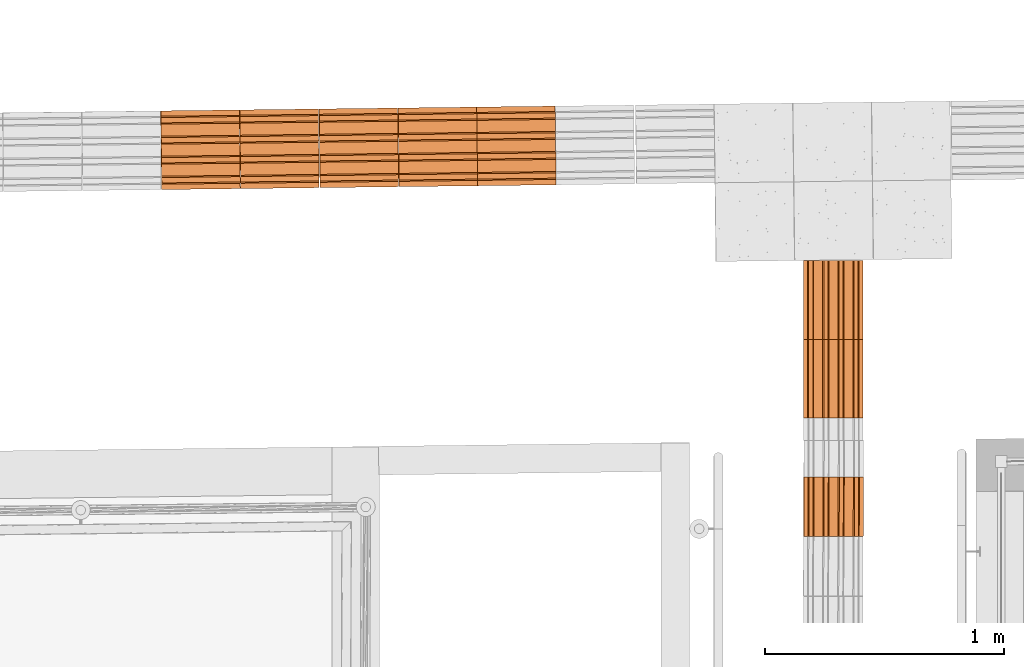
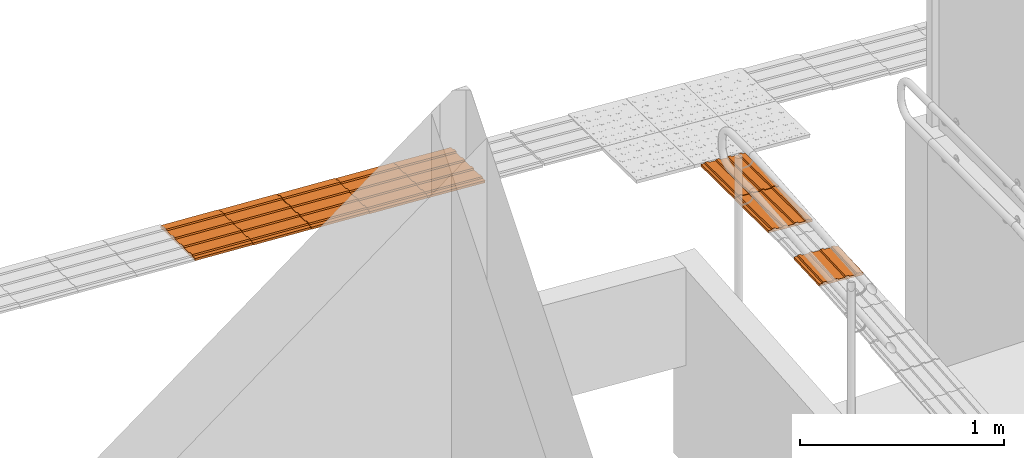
# One storey, part 183 of 237: 8 proxies.
"""IFC2X3 building model written with IfcOpenShell, lengths in millimetres."""

from ifc_helpers import new_model, entity, si_unit, converted_unit, derived_unit, money_unit, direction, frame, origin_with_axes, place, context, subcontext, project, spatial, open_shell, faceted_brep, surface_model, source, transform, mapped, type_object, element, save


model = new_model("IFC2X3")

# Units and contexts
model_context = context("Model", 3, precision=0.01, world=origin_with_axes(), true_north=direction((0.0, 1.0)))
body_context = subcontext(model_context, "Body", "Model", "MODEL_VIEW")
ifc_project = project(units=[si_unit("LENGTHUNIT", "METRE", prefix="MILLI"), si_unit("AREAUNIT", "SQUARE_METRE"), si_unit("VOLUMEUNIT", "CUBIC_METRE"), converted_unit("PLANEANGLEUNIT", "DEGREE", entity("IfcPlaneAngleMeasure", 0.0174532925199), si_unit("PLANEANGLEUNIT", "RADIAN"), dimensions=[0, 0, 0, 0, 0, 0, 0]), money_unit("USD"), converted_unit("TIMEUNIT", "Year", entity("IfcTimeMeasure", 31556926.0), si_unit("TIMEUNIT", "SECOND"), dimensions=[0, 0, 1, 0, 0, 0, 0]), si_unit("MASSUNIT", "GRAM", prefix="KILO"), si_unit("THERMODYNAMICTEMPERATUREUNIT", "DEGREE_CELSIUS"), si_unit("LUMINOUSINTENSITYUNIT", "LUMEN"), si_unit("ENERGYUNIT", "JOULE", prefix="MEGA"), derived_unit("THERMALCONDUCTANCEUNIT", [(si_unit("POWERUNIT", "WATT"), 1), (si_unit("LENGTHUNIT", "METRE"), -1), (si_unit("THERMODYNAMICTEMPERATUREUNIT", "KELVIN"), -1)]), derived_unit("SPECIFICHEATCAPACITYUNIT", [(si_unit("ENERGYUNIT", "JOULE"), 1), (si_unit("MASSUNIT", "GRAM", prefix="KILO"), -1), (si_unit("THERMODYNAMICTEMPERATUREUNIT", "KELVIN"), -1)]), derived_unit("MASSDENSITYUNIT", [(si_unit("MASSUNIT", "GRAM", prefix="KILO"), 1), (si_unit("VOLUMEUNIT", "CUBIC_METRE"), -1)])], contexts=[model_context])

# Site, building, storey
site_placement = place(None, origin_with_axes())
site = spatial("IfcSite", under=ifc_project, at=site_placement, Name="Local", CompositionType="ELEMENT")
building_placement = place(site_placement, origin_with_axes())
building = spatial("IfcBuilding", under=site, at=building_placement, Name="Construção", CompositionType="ELEMENT")
storey_placement = place(building_placement, origin_with_axes())
storey = spatial("IfcBuildingStorey", under=building, at=storey_placement, Name="Pavimento Térreo", CompositionType="ELEMENT", Elevation=0.0)

# Proxies
building_element_proxy_type_1 = type_object("IfcBuildingElementProxyType", Name="Piso Direcional 27", PredefinedType="NOTDEFINED")
shared_shape_1 = source(origin_with_axes(), body_context, "Body", "SurfaceModel", [
    surface_model("IfcShellBasedSurfaceModel", [(-0.309064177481, -47.258225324, 4.01664745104), (328.718344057, -47.258225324, 29.3339267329), (328.20688387, -41.665004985, 35.9809450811), (-0.820524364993, -41.665004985, 10.6636657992)], [open_shell([[[0, 1, 2, 3]]])]),
    surface_model("IfcShellBasedSurfaceModel", [(329.741264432, -153.529411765, 16.0398900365), (329.741264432, 176.470588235, 16.0398900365), (328.718344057, 176.470588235, 29.3339267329), (328.718344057, 154.097706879, 29.3339267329), (328.20688387, 148.50448654, 35.9809450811), (328.20688387, 126.131605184, 35.9809450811), (328.718344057, 120.538384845, 29.3339267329), (328.718344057, 70.1994017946, 29.3339267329), (328.20688387, 64.6061814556, 35.9809450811), (328.20688387, 42.2333000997, 35.9809450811), (328.718344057, 36.6400797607, 29.3339267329), (328.718344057, -13.6989032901, 29.3339267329), (328.20688387, -19.2921236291, 35.9809450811), (328.20688387, -41.665004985, 35.9809450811), (328.718344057, -47.258225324, 29.3339267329), (328.718344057, -97.5972083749, 29.3339267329), (328.20688387, -103.190428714, 35.9809450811), (328.20688387, -125.56331007, 35.9809450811), (328.718344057, -131.156530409, 29.3339267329), (328.718344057, -153.529411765, 29.3339267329)], [open_shell([[[0, 1, 2, 3, 4, 5, 6, 7, 8, 9, 10, 11, 12, 13, 14, 15, 16, 17, 18, 19]]])]),
    surface_model("IfcShellBasedSurfaceModel", [(-0.820524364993, -19.2921236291, 10.6636657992), (328.20688387, -19.2921236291, 35.9809450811), (328.718344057, -13.6989032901, 29.3339267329), (-0.309064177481, -13.6989032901, 4.01664745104)], [open_shell([[[0, 1, 2, 3]]])]),
    surface_model("IfcShellBasedSurfaceModel", [(-0.820524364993, -103.190428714, 10.6636657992), (328.20688387, -103.190428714, 35.9809450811), (328.718344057, -97.5972083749, 29.3339267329), (-0.309064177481, -97.5972083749, 4.01664745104)], [open_shell([[[0, 1, 2, 3]]])]),
    surface_model("IfcShellBasedSurfaceModel", [(-0.820524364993, 64.6061814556, 10.6636657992), (328.20688387, 64.6061814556, 35.9809450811), (328.718344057, 70.1994017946, 29.3339267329), (-0.309064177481, 70.1994017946, 4.01664745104)], [open_shell([[[0, 1, 2, 3]]])]),
    surface_model("IfcShellBasedSurfaceModel", [(-0.309064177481, 36.6400797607, 4.01664745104), (328.718344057, 36.6400797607, 29.3339267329), (328.20688387, 42.2333000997, 35.9809450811), (-0.820524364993, 42.2333000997, 10.6636657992)], [open_shell([[[0, 1, 2, 3]]])]),
    surface_model("IfcShellBasedSurfaceModel", [(-0.309064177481, -131.156530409, 4.01664745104), (328.718344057, -131.156530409, 29.3339267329), (328.20688387, -125.56331007, 35.9809450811), (-0.820524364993, -125.56331007, 10.6636657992)], [open_shell([[[0, 1, 2, 3]]])]),
    surface_model("IfcShellBasedSurfaceModel", [(-0.309064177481, 176.470588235, 4.01664745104), (-0.309064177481, 154.097706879, 4.01664745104), (328.718344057, 154.097706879, 29.3339267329), (328.718344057, 176.470588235, 29.3339267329)], [open_shell([[[0, 1, 2, 3]]])]),
    surface_model("IfcShellBasedSurfaceModel", [(-0.309064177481, 120.538384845, 4.01664745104), (328.718344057, 120.538384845, 29.3339267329), (328.20688387, 126.131605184, 35.9809450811), (-0.820524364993, 126.131605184, 10.6636657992)], [open_shell([[[0, 1, 2, 3]]])]),
    surface_model("IfcShellBasedSurfaceModel", [(-0.820524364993, 148.50448654, 10.6636657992), (328.20688387, 148.50448654, 35.9809450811), (328.718344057, 154.097706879, 29.3339267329), (-0.309064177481, 154.097706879, 4.01664745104)], [open_shell([[[0, 1, 2, 3]]])]),
    surface_model("IfcShellBasedSurfaceModel", [(-0.309064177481, 36.6400797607, 4.01664745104), (-0.309064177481, -13.6989032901, 4.01664745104), (328.718344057, -13.6989032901, 29.3339267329), (328.718344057, 36.6400797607, 29.3339267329)], [open_shell([[[0, 1, 2, 3]]])]),
    surface_model("IfcShellBasedSurfaceModel", [(-0.309064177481, 120.538384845, 4.01664745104), (-0.309064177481, 70.1994017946, 4.01664745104), (328.718344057, 70.1994017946, 29.3339267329), (328.718344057, 120.538384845, 29.3339267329)], [open_shell([[[0, 1, 2, 3]]])]),
    surface_model("IfcShellBasedSurfaceModel", [(-0.820524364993, 148.50448654, 10.6636657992), (-0.820524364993, 126.131605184, 10.6636657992), (328.20688387, 126.131605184, 35.9809450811), (328.20688387, 148.50448654, 35.9809450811)], [open_shell([[[0, 1, 2, 3]]])]),
    surface_model("IfcShellBasedSurfaceModel", [(-0.309064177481, 120.538384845, 4.01664745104), (-0.820524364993, 126.131605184, 10.6636657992), (-0.820524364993, 148.50448654, 10.6636657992), (-0.309064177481, 154.097706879, 4.01664745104), (-0.309064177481, 176.470588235, 4.01664745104), (0.713856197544, 176.470588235, -9.27738924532), (0.713856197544, -153.529411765, -9.27738924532), (-0.309064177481, -153.529411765, 4.01664745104), (-0.309064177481, -131.156530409, 4.01664745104), (-0.820524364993, -125.56331007, 10.6636657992), (-0.820524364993, -103.190428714, 10.6636657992), (-0.309064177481, -97.5972083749, 4.01664745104), (-0.309064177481, -47.258225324, 4.01664745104), (-0.820524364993, -41.665004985, 10.6636657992), (-0.820524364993, -19.2921236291, 10.6636657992), (-0.309064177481, -13.6989032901, 4.01664745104), (-0.309064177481, 36.6400797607, 4.01664745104), (-0.820524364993, 42.2333000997, 10.6636657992), (-0.820524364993, 64.6061814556, 10.6636657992), (-0.309064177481, 70.1994017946, 4.01664745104)], [open_shell([[[0, 1, 2, 3, 4, 5, 6, 7, 8, 9, 10, 11, 12, 13, 14, 15, 16, 17, 18, 19]]])]),
    surface_model("IfcShellBasedSurfaceModel", [(328.20688387, -41.665004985, 35.9809450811), (328.20688387, -19.2921236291, 35.9809450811), (-0.820524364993, -19.2921236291, 10.6636657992), (-0.820524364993, -41.665004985, 10.6636657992)], [open_shell([[[0, 1, 2, 3]]])]),
    surface_model("IfcShellBasedSurfaceModel", [(-0.309064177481, -47.258225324, 4.01664745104), (-0.309064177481, -97.5972083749, 4.01664745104), (328.718344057, -97.5972083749, 29.3339267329), (328.718344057, -47.258225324, 29.3339267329)], [open_shell([[[0, 1, 2, 3]]])]),
    surface_model("IfcShellBasedSurfaceModel", [(328.20688387, 42.2333000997, 35.9809450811), (328.20688387, 64.6061814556, 35.9809450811), (-0.820524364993, 64.6061814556, 10.6636657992), (-0.820524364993, 42.2333000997, 10.6636657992)], [open_shell([[[0, 1, 2, 3]]])]),
    surface_model("IfcShellBasedSurfaceModel", [(328.20688387, -125.56331007, 35.9809450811), (328.20688387, -103.190428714, 35.9809450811), (-0.820524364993, -103.190428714, 10.6636657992), (-0.820524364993, -125.56331007, 10.6636657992)], [open_shell([[[0, 1, 2, 3]]])]),
    surface_model("IfcShellBasedSurfaceModel", [(329.741264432, 176.470588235, 16.0398900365), (0.713856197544, 176.470588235, -9.27738924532), (-0.309064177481, 176.470588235, 4.01664745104), (328.718344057, 176.470588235, 29.3339267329)], [open_shell([[[0, 1, 2, 3]]])]),
    surface_model("IfcShellBasedSurfaceModel", [(329.741264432, -153.529411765, 16.0398900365), (0.713856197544, -153.529411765, -9.27738924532), (0.713856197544, 176.470588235, -9.27738924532), (329.741264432, 176.470588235, 16.0398900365)], [open_shell([[[0, 1, 2, 3]]])]),
    surface_model("IfcShellBasedSurfaceModel", [(328.718344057, -153.529411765, 29.3339267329), (328.718344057, -131.156530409, 29.3339267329), (-0.309064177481, -131.156530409, 4.01664745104), (-0.309064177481, -153.529411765, 4.01664745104)], [open_shell([[[0, 1, 2, 3]]])]),
    surface_model("IfcShellBasedSurfaceModel", [(0.713856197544, -153.529411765, -9.27738924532), (329.741264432, -153.529411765, 16.0398900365), (328.718344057, -153.529411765, 29.3339267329), (-0.309064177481, -153.529411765, 4.01664745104)], [open_shell([[[0, 1, 2, 3]]])]),
])
proxy_1_placement = place(storey_placement, frame((66400.1889889, 36854.0893343, -2731.22411831), z_axis=(0.0, 0.0, 1.0), x_axis=(-0.999926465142, -0.012127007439, 0.0)))
element("IfcBuildingElementProxy", 1, at=proxy_1_placement, inside=storey, type_object=building_element_proxy_type_1, Name="Objeto-0055", context=body_context, shape_type="MappedRepresentation", body=[
    mapped(shared_shape_1, transform((0.0, 0.0, 0.0))),
])
building_element_proxy_type_2 = type_object("IfcBuildingElementProxyType", Name="FALTA", PredefinedType="NOTDEFINED")
shared_shape_2 = source(origin_with_axes(), body_context, "Body", "Brep", [
    faceted_brep([(249.287764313, -99.3610078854, 19.28314138), (-0.245935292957, -99.3610078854, 4.02100649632), (-0.245935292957, -116.310160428, 4.02100649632), (249.287764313, -116.310160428, 19.28314138), (-0.652925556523, -95.1237197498, 10.6752384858), (248.880774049, -95.1237197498, 25.9373733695), (-0.652925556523, -78.1745672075, 10.6752384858), (-0.245935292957, -73.9372790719, 4.02100649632), (-0.245935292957, -35.8016858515, 4.02100649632), (-0.652925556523, -31.5643977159, 10.6752384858), (-0.652925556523, -14.6152451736, 10.6752384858), (-0.245935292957, -10.377957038, 4.02100649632), (-0.245935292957, 27.7576361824, 4.02100649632), (-0.652925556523, 31.994924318, 10.6752384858), (-0.652925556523, 48.9440768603, 10.6752384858), (-0.245935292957, 53.1813649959, 4.02100649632), (-0.245935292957, 91.3169582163, 4.02100649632), (-0.652925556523, 95.5542463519, 10.6752384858), (-0.652925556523, 112.503398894, 10.6752384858), (-0.245935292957, 116.74068703, 4.02100649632), (-0.245935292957, 133.689839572, 4.02100649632), (0.568045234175, 133.689839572, -9.28745748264), (0.568045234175, -116.310160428, -9.28745748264), (250.10174484, -116.310160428, 5.97467740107), (248.880774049, -78.1745672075, 25.9373733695), (250.10174484, 133.689839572, 5.97467740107), (249.287764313, 133.689839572, 19.28314138), (249.287764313, 116.74068703, 19.28314138), (248.880774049, 112.503398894, 25.9373733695), (248.880774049, 95.5542463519, 25.9373733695), (249.287764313, 91.3169582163, 19.28314138), (249.287764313, 53.1813649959, 19.28314138), (248.880774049, 48.9440768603, 25.9373733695), (248.880774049, 31.994924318, 25.9373733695), (249.287764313, 27.7576361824, 19.28314138), (249.287764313, -10.377957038, 19.28314138), (248.880774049, -14.6152451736, 25.9373733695), (248.880774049, -31.5643977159, 25.9373733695), (249.287764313, -35.8016858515, 19.28314138), (249.287764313, -73.9372790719, 19.28314138)], [[[0, 1, 2, 3]], [[4, 1, 0, 5]], [[6, 7, 8, 9, 10, 11, 12, 13, 14, 15, 16, 17, 18, 19, 20, 21, 22, 2, 1, 4]], [[2, 22, 23, 3]], [[24, 5, 0, 3, 23, 25, 26, 27, 28, 29, 30, 31, 32, 33, 34, 35, 36, 37, 38, 39]], [[6, 4, 5, 24]], [[7, 6, 24, 39]], [[38, 8, 7, 39]], [[9, 8, 38, 37]], [[10, 9, 37, 36]], [[10, 36, 35, 11]], [[11, 35, 34, 12]], [[13, 12, 34, 33]], [[14, 13, 33, 32]], [[15, 14, 32, 31]], [[15, 31, 30, 16]], [[17, 16, 30, 29]], [[18, 17, 29, 28]], [[19, 18, 28, 27]], [[20, 19, 27, 26]], [[20, 26, 25, 21]], [[22, 21, 25, 23]]]),
])
proxy_2_placement = place(storey_placement, frame((67573.9389832, 35203.5604678, -2830.47282413), z_axis=(0.0748760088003, 0.0207822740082, 0.996976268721), x_axis=(-0.00155642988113, 0.999784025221, -0.0207239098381)))
element("IfcBuildingElementProxy", 2, at=proxy_2_placement, inside=storey, type_object=building_element_proxy_type_2, Name="Objeto-0055", context=body_context, shape_type="MappedRepresentation", body=[
    mapped(shared_shape_2, transform((0.0, 0.0, 0.0))),
])
shared_shape_3 = source(origin_with_axes(), body_context, "Body", "SurfaceModel", [
    surface_model("IfcShellBasedSurfaceModel", [(-0.281015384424, -47.258225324, 4.01870722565), (328.915121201, -47.258225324, 27.0383435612), (328.450078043, -41.665004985, 33.6887705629), (-0.746058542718, -41.665004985, 10.6691342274)], [open_shell([[[0, 1, 2, 3]]])]),
    surface_model("IfcShellBasedSurfaceModel", [(329.845207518, -153.529411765, 13.7374895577), (329.845207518, 176.470588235, 13.7374895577), (328.915121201, 176.470588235, 27.0383435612), (328.915121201, 154.097706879, 27.0383435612), (328.450078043, 148.50448654, 33.6887705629), (328.450078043, 126.131605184, 33.6887705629), (328.915121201, 120.538384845, 27.0383435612), (328.915121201, 70.1994017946, 27.0383435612), (328.450078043, 64.6061814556, 33.6887705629), (328.450078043, 42.2333000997, 33.6887705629), (328.915121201, 36.6400797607, 27.0383435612), (328.915121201, -13.6989032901, 27.0383435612), (328.450078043, -19.2921236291, 33.6887705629), (328.450078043, -41.665004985, 33.6887705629), (328.915121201, -47.258225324, 27.0383435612), (328.915121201, -97.5972083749, 27.0383435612), (328.450078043, -103.190428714, 33.6887705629), (328.450078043, -125.56331007, 33.6887705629), (328.915121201, -131.156530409, 27.0383435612), (328.915121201, -153.529411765, 27.0383435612)], [open_shell([[[0, 1, 2, 3, 4, 5, 6, 7, 8, 9, 10, 11, 12, 13, 14, 15, 16, 17, 18, 19]]])]),
    surface_model("IfcShellBasedSurfaceModel", [(-0.746058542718, -19.2921236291, 10.6691342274), (328.450078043, -19.2921236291, 33.6887705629), (328.915121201, -13.6989032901, 27.0383435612), (-0.281015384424, -13.6989032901, 4.01870722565)], [open_shell([[[0, 1, 2, 3]]])]),
    surface_model("IfcShellBasedSurfaceModel", [(-0.746058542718, -103.190428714, 10.6691342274), (328.450078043, -103.190428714, 33.6887705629), (328.915121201, -97.5972083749, 27.0383435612), (-0.281015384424, -97.5972083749, 4.01870722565)], [open_shell([[[0, 1, 2, 3]]])]),
    surface_model("IfcShellBasedSurfaceModel", [(-0.746058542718, 64.6061814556, 10.6691342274), (328.450078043, 64.6061814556, 33.6887705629), (328.915121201, 70.1994017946, 27.0383435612), (-0.281015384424, 70.1994017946, 4.01870722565)], [open_shell([[[0, 1, 2, 3]]])]),
    surface_model("IfcShellBasedSurfaceModel", [(-0.281015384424, 36.6400797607, 4.01870722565), (328.915121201, 36.6400797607, 27.0383435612), (328.450078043, 42.2333000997, 33.6887705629), (-0.746058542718, 42.2333000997, 10.6691342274)], [open_shell([[[0, 1, 2, 3]]])]),
    surface_model("IfcShellBasedSurfaceModel", [(-0.281015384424, -131.156530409, 4.01870722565), (328.915121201, -131.156530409, 27.0383435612), (328.450078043, -125.56331007, 33.6887705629), (-0.746058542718, -125.56331007, 10.6691342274)], [open_shell([[[0, 1, 2, 3]]])]),
    surface_model("IfcShellBasedSurfaceModel", [(-0.281015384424, 176.470588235, 4.01870722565), (-0.281015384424, 154.097706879, 4.01870722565), (328.915121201, 154.097706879, 27.0383435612), (328.915121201, 176.470588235, 27.0383435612)], [open_shell([[[0, 1, 2, 3]]])]),
    surface_model("IfcShellBasedSurfaceModel", [(-0.281015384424, 120.538384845, 4.01870722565), (328.915121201, 120.538384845, 27.0383435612), (328.450078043, 126.131605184, 33.6887705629), (-0.746058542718, 126.131605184, 10.6691342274)], [open_shell([[[0, 1, 2, 3]]])]),
    surface_model("IfcShellBasedSurfaceModel", [(-0.746058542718, 148.50448654, 10.6691342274), (328.450078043, 148.50448654, 33.6887705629), (328.915121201, 154.097706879, 27.0383435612), (-0.281015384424, 154.097706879, 4.01870722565)], [open_shell([[[0, 1, 2, 3]]])]),
    surface_model("IfcShellBasedSurfaceModel", [(-0.281015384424, 36.6400797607, 4.01870722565), (-0.281015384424, -13.6989032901, 4.01870722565), (328.915121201, -13.6989032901, 27.0383435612), (328.915121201, 36.6400797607, 27.0383435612)], [open_shell([[[0, 1, 2, 3]]])]),
    surface_model("IfcShellBasedSurfaceModel", [(-0.281015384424, 120.538384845, 4.01870722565), (-0.281015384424, 70.1994017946, 4.01870722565), (328.915121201, 70.1994017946, 27.0383435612), (328.915121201, 120.538384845, 27.0383435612)], [open_shell([[[0, 1, 2, 3]]])]),
    surface_model("IfcShellBasedSurfaceModel", [(-0.746058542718, 148.50448654, 10.6691342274), (-0.746058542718, 126.131605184, 10.6691342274), (328.450078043, 126.131605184, 33.6887705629), (328.450078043, 148.50448654, 33.6887705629)], [open_shell([[[0, 1, 2, 3]]])]),
    surface_model("IfcShellBasedSurfaceModel", [(-0.281015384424, 120.538384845, 4.01870722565), (-0.746058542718, 126.131605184, 10.6691342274), (-0.746058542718, 148.50448654, 10.6691342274), (-0.281015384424, 154.097706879, 4.01870722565), (-0.281015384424, 176.470588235, 4.01870722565), (0.649070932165, 176.470588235, -9.28214677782), (0.649070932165, -153.529411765, -9.28214677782), (-0.281015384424, -153.529411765, 4.01870722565), (-0.281015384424, -131.156530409, 4.01870722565), (-0.746058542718, -125.56331007, 10.6691342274), (-0.746058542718, -103.190428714, 10.6691342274), (-0.281015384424, -97.5972083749, 4.01870722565), (-0.281015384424, -47.258225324, 4.01870722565), (-0.746058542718, -41.665004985, 10.6691342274), (-0.746058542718, -19.2921236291, 10.6691342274), (-0.281015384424, -13.6989032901, 4.01870722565), (-0.281015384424, 36.6400797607, 4.01870722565), (-0.746058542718, 42.2333000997, 10.6691342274), (-0.746058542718, 64.6061814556, 10.6691342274), (-0.281015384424, 70.1994017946, 4.01870722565)], [open_shell([[[0, 1, 2, 3, 4, 5, 6, 7, 8, 9, 10, 11, 12, 13, 14, 15, 16, 17, 18, 19]]])]),
    surface_model("IfcShellBasedSurfaceModel", [(328.450078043, -41.665004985, 33.6887705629), (328.450078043, -19.2921236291, 33.6887705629), (-0.746058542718, -19.2921236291, 10.6691342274), (-0.746058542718, -41.665004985, 10.6691342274)], [open_shell([[[0, 1, 2, 3]]])]),
    surface_model("IfcShellBasedSurfaceModel", [(-0.281015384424, -47.258225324, 4.01870722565), (-0.281015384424, -97.5972083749, 4.01870722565), (328.915121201, -97.5972083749, 27.0383435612), (328.915121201, -47.258225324, 27.0383435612)], [open_shell([[[0, 1, 2, 3]]])]),
    surface_model("IfcShellBasedSurfaceModel", [(328.450078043, 42.2333000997, 33.6887705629), (328.450078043, 64.6061814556, 33.6887705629), (-0.746058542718, 64.6061814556, 10.6691342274), (-0.746058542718, 42.2333000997, 10.6691342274)], [open_shell([[[0, 1, 2, 3]]])]),
    surface_model("IfcShellBasedSurfaceModel", [(328.450078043, -125.56331007, 33.6887705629), (328.450078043, -103.190428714, 33.6887705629), (-0.746058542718, -103.190428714, 10.6691342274), (-0.746058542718, -125.56331007, 10.6691342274)], [open_shell([[[0, 1, 2, 3]]])]),
    surface_model("IfcShellBasedSurfaceModel", [(329.845207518, 176.470588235, 13.7374895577), (0.649070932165, 176.470588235, -9.28214677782), (-0.281015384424, 176.470588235, 4.01870722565), (328.915121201, 176.470588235, 27.0383435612)], [open_shell([[[0, 1, 2, 3]]])]),
    surface_model("IfcShellBasedSurfaceModel", [(329.845207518, -153.529411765, 13.7374895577), (0.649070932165, -153.529411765, -9.28214677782), (0.649070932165, 176.470588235, -9.28214677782), (329.845207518, 176.470588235, 13.7374895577)], [open_shell([[[0, 1, 2, 3]]])]),
    surface_model("IfcShellBasedSurfaceModel", [(328.915121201, -153.529411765, 27.0383435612), (328.915121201, -131.156530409, 27.0383435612), (-0.281015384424, -131.156530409, 4.01870722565), (-0.281015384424, -153.529411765, 4.01870722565)], [open_shell([[[0, 1, 2, 3]]])]),
    surface_model("IfcShellBasedSurfaceModel", [(0.649070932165, -153.529411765, -9.28214677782), (329.845207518, -153.529411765, 13.7374895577), (328.915121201, -153.529411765, 27.0383435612), (-0.281015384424, -153.529411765, 4.01870722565)], [open_shell([[[0, 1, 2, 3]]])]),
])
for number, where, z_axis, x_axis, name in (
    (3, (65076.4498055, 36838.0351589, -2630.49728927), (0.0, 0.0, 1.0), (-0.999926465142, -0.012127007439, 0.0), "Objeto-0055"),
    (4, (66071.2499934, 36850.0999953, -2705.43714449), (0.0, 0.0, 1.0), (-0.999926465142, -0.012127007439, 0.0), "Objeto-0055"),
    (5, (65407.3751971, 36842.0485887, -2655.42906966), (0.0, 0.0, 1.0), (-0.999926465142, -0.012127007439, 0.0), "Objeto-0055"),
    (6, (65740.1925245, 36846.0849637, -2679.96577263), (0.0, 0.0, 1.0), (-0.999926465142, -0.012127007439, 0.0), "Objeto-0055"),
):
    element("IfcBuildingElementProxy", number, at=place(storey_placement, frame(where, z_axis=z_axis, x_axis=x_axis)), inside=storey, type_object=building_element_proxy_type_1, Name=name, context=body_context, shape_type="MappedRepresentation", body=[
        mapped(shared_shape_3, transform((0.0, 0.0, 0.0))),
    ])
shared_shape_4 = source(origin_with_axes(), body_context, "Body", "SurfaceModel", [
    surface_model("IfcShellBasedSurfaceModel", [(-0.059020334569, -35.3871052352, 6.76306046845), (329.928414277, -35.3871052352, 9.64281718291), (329.873245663, -30.6508452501, 15.9645141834), (-0.114188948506, -30.6508452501, 13.084757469)], [open_shell([[[0, 1, 2, 3]]])]),
    surface_model("IfcShellBasedSurfaceModel", [(329.990525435, -116.681221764, 2.52558342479), (330.157898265, 132.581966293, -16.6534433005), (330.041887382, 133.604886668, -3.35991280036), (330.030540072, 116.705687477, -2.05963980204), (329.969697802, 112.992347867, 4.91219369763), (329.958350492, 96.0931486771, 6.21246669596), (330.013519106, 91.356888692, -0.109230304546), (329.987987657, 53.3336905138, 2.81638394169), (329.927145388, 49.6203509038, 9.78821744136), (329.915798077, 32.7211517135, 11.0884904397), (329.970966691, 27.9848917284, 4.76679343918), (329.945435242, -10.0383064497, 7.69240768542), (329.884592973, -13.7516460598, 14.6642411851), (329.873245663, -30.6508452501, 15.9645141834), (329.928414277, -35.3871052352, 9.64281718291), (329.902882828, -73.4103034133, 12.5684314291), (329.842040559, -77.1236430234, 19.5402649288), (329.830693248, -94.0228422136, 20.8405379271), (329.885861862, -98.7591021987, 14.5188409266), (329.874514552, -115.658301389, 15.819113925)], [open_shell([[[0, 1, 2, 3, 4, 5, 6, 7, 8, 9, 10, 11, 12, 13, 14, 15, 16, 17, 18, 19]]])]),
    surface_model("IfcShellBasedSurfaceModel", [(-0.102841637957, -13.7516460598, 11.7844844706), (329.884592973, -13.7516460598, 14.6642411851), (329.945435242, -10.0383064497, 7.69240768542), (-0.0419993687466, -10.0383064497, 4.81265097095)], [open_shell([[[0, 1, 2, 3]]])]),
    surface_model("IfcShellBasedSurfaceModel", [(-0.145394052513, -77.1236430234, 16.6605082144), (329.842040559, -77.1236430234, 19.5402649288), (329.902882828, -73.4103034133, 12.5684314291), (-0.0845517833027, -73.4103034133, 9.68867471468)], [open_shell([[[0, 1, 2, 3]]])]),
    surface_model("IfcShellBasedSurfaceModel", [(-0.0602892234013, 49.6203509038, 6.9084607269), (329.927145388, 49.6203509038, 9.78821744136), (329.987987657, 53.3336905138, 2.81638394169), (0.000553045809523, 53.3336905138, -0.0633727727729)], [open_shell([[[0, 1, 2, 3]]])]),
    surface_model("IfcShellBasedSurfaceModel", [(-0.0164679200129, 27.9848917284, 1.88703672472), (329.970966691, 27.9848917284, 4.76679343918), (329.915798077, 32.7211517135, 11.0884904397), (-0.0716365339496, 32.7211517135, 8.20873372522)], [open_shell([[[0, 1, 2, 3]]])]),
    surface_model("IfcShellBasedSurfaceModel", [(-0.101572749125, -98.7591021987, 11.6390842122), (329.885861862, -98.7591021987, 14.5188409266), (329.830693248, -94.0228422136, 20.8405379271), (-0.156741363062, -94.0228422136, 17.9607812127)], [open_shell([[[0, 1, 2, 3]]])]),
    surface_model("IfcShellBasedSurfaceModel", [(0.0544527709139, 133.604886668, -6.23966951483), (0.0431054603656, 116.705687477, -4.9393965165), (330.030540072, 116.705687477, -2.05963980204), (330.041887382, 133.604886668, -3.35991280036)], [open_shell([[[0, 1, 2, 3]]])]),
    surface_model("IfcShellBasedSurfaceModel", [(0.0260844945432, 91.356888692, -2.98898701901), (330.013519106, 91.356888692, -0.109230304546), (329.958350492, 96.0931486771, 6.21246669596), (-0.0290841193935, 96.0931486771, 3.3327099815)], [open_shell([[[0, 1, 2, 3]]])]),
    surface_model("IfcShellBasedSurfaceModel", [(-0.0177368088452, 112.992347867, 2.03243698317), (329.969697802, 112.992347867, 4.91219369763), (330.030540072, 116.705687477, -2.05963980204), (0.0431054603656, 116.705687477, -4.9393965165)], [open_shell([[[0, 1, 2, 3]]])]),
    surface_model("IfcShellBasedSurfaceModel", [(-0.0164679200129, 27.9848917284, 1.88703672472), (-0.0419993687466, -10.0383064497, 4.81265097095), (329.945435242, -10.0383064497, 7.69240768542), (329.970966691, 27.9848917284, 4.76679343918)], [open_shell([[[0, 1, 2, 3]]])]),
    surface_model("IfcShellBasedSurfaceModel", [(0.0260844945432, 91.356888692, -2.98898701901), (0.000553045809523, 53.3336905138, -0.0633727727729), (329.987987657, 53.3336905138, 2.81638394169), (330.013519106, 91.356888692, -0.109230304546)], [open_shell([[[0, 1, 2, 3]]])]),
    surface_model("IfcShellBasedSurfaceModel", [(-0.0177368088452, 112.992347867, 2.03243698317), (-0.0290841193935, 96.0931486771, 3.3327099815), (329.958350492, 96.0931486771, 6.21246669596), (329.969697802, 112.992347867, 4.91219369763)], [open_shell([[[0, 1, 2, 3]]])]),
    surface_model("IfcShellBasedSurfaceModel", [(0.0260844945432, 91.356888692, -2.98898701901), (-0.0290841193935, 96.0931486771, 3.3327099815), (-0.0177368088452, 112.992347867, 2.03243698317), (0.0431054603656, 116.705687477, -4.9393965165), (0.0544527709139, 133.604886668, -6.23966951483), (0.170463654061, 132.581966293, -19.533200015), (0.00309082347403, -116.681221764, -0.354173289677), (-0.112920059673, -115.658301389, 12.9393572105), (-0.101572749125, -98.7591021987, 11.6390842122), (-0.156741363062, -94.0228422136, 17.9607812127), (-0.145394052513, -77.1236430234, 16.6605082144), (-0.0845517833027, -73.4103034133, 9.68867471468), (-0.059020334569, -35.3871052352, 6.76306046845), (-0.114188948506, -30.6508452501, 13.084757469), (-0.102841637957, -13.7516460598, 11.7844844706), (-0.0419993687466, -10.0383064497, 4.81265097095), (-0.0164679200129, 27.9848917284, 1.88703672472), (-0.0716365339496, 32.7211517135, 8.20873372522), (-0.0602892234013, 49.6203509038, 6.9084607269), (0.000553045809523, 53.3336905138, -0.0633727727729)], [open_shell([[[0, 1, 2, 3, 4, 5, 6, 7, 8, 9, 10, 11, 12, 13, 14, 15, 16, 17, 18, 19]]])]),
    surface_model("IfcShellBasedSurfaceModel", [(329.873245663, -30.6508452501, 15.9645141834), (329.884592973, -13.7516460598, 14.6642411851), (-0.102841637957, -13.7516460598, 11.7844844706), (-0.114188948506, -30.6508452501, 13.084757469)], [open_shell([[[0, 1, 2, 3]]])]),
    surface_model("IfcShellBasedSurfaceModel", [(-0.059020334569, -35.3871052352, 6.76306046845), (-0.0845517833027, -73.4103034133, 9.68867471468), (329.902882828, -73.4103034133, 12.5684314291), (329.928414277, -35.3871052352, 9.64281718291)], [open_shell([[[0, 1, 2, 3]]])]),
    surface_model("IfcShellBasedSurfaceModel", [(329.915798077, 32.7211517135, 11.0884904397), (329.927145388, 49.6203509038, 9.78821744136), (-0.0602892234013, 49.6203509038, 6.9084607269), (-0.0716365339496, 32.7211517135, 8.20873372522)], [open_shell([[[0, 1, 2, 3]]])]),
    surface_model("IfcShellBasedSurfaceModel", [(329.830693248, -94.0228422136, 20.8405379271), (329.842040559, -77.1236430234, 19.5402649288), (-0.145394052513, -77.1236430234, 16.6605082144), (-0.156741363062, -94.0228422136, 17.9607812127)], [open_shell([[[0, 1, 2, 3]]])]),
    surface_model("IfcShellBasedSurfaceModel", [(330.157898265, 132.581966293, -16.6534433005), (0.170463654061, 132.581966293, -19.533200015), (0.0544527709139, 133.604886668, -6.23966951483), (330.041887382, 133.604886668, -3.35991280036)], [open_shell([[[0, 1, 2, 3]]])]),
    surface_model("IfcShellBasedSurfaceModel", [(329.990525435, -116.681221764, 2.52558342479), (0.00309082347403, -116.681221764, -0.354173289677), (0.170463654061, 132.581966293, -19.533200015), (330.157898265, 132.581966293, -16.6534433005)], [open_shell([[[0, 1, 2, 3]]])]),
    surface_model("IfcShellBasedSurfaceModel", [(329.874514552, -115.658301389, 15.819113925), (329.885861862, -98.7591021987, 14.5188409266), (-0.101572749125, -98.7591021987, 11.6390842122), (-0.112920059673, -115.658301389, 12.9393572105)], [open_shell([[[0, 1, 2, 3]]])]),
    surface_model("IfcShellBasedSurfaceModel", [(0.00309082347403, -116.681221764, -0.354173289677), (329.990525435, -116.681221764, 2.52558342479), (329.874514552, -115.658301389, 15.819113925), (-0.112920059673, -115.658301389, 12.9393572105)], [open_shell([[[0, 1, 2, 3]]])]),
])
for number, where, z_axis, x_axis, name in (
    (7, (67555.748006, 36359.9317998, -2813.84175677), (0.0, 0.0, 1.0), (0.0, -1.0, 0.0), "Objeto-0055"),
    (8, (67555.748006, 36029.9317998, -2813.84175677), (0.0, 0.0, 1.0), (0.0, -1.0, 0.0), "Objeto-0055"),
):
    element("IfcBuildingElementProxy", number, at=place(storey_placement, frame(where, z_axis=z_axis, x_axis=x_axis)), inside=storey, type_object=building_element_proxy_type_1, Name=name, context=body_context, shape_type="MappedRepresentation", body=[
        mapped(shared_shape_4, transform((0.0, 0.0, 0.0))),
    ])

save(model, "model.ifc")
